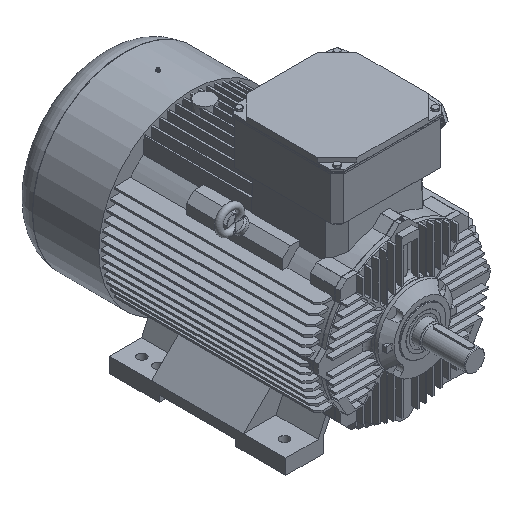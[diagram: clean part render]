
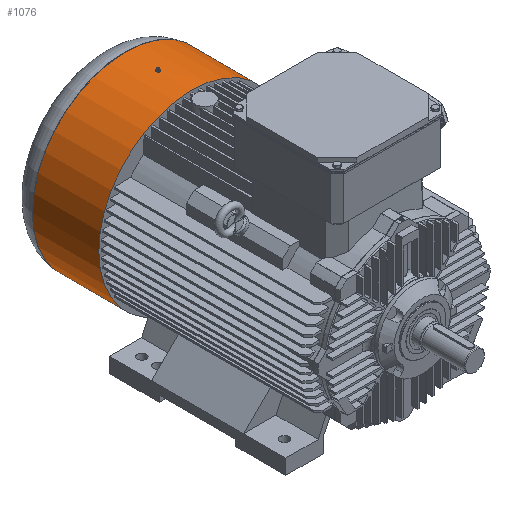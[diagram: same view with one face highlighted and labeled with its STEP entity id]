
A CAD part, isometric view. The second image highlights one B-rep face of the part: STEP entity #1076.
In plain terms, the highlighted cylindrical face has radius 298 mm (diameter 596 mm), a full revolution.
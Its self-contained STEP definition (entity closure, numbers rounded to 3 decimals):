
#1076 = ADVANCED_FACE( '', ( #3470, #3471, #3472 ), #3473, .T. );
#3470 = FACE_OUTER_BOUND( '', #10422, .T. );
#3471 = FACE_OUTER_BOUND( '', #10423, .T. );
#3472 = FACE_BOUND( '', #10424, .T. );
#3473 = CYLINDRICAL_SURFACE( '', #10425, 298. );
#10422 = EDGE_LOOP( '', ( #18239 ) );
#10423 = EDGE_LOOP( '', ( #18240 ) );
#10424 = EDGE_LOOP( '', ( #18241, #18242, #18243, #18244, #18245, #18246, #18247, #18248 ) );
#10425 = AXIS2_PLACEMENT_3D( '', #18249, #18250, #18251 );
#18239 = ORIENTED_EDGE( '', *, *, #24209, .T. );
#18240 = ORIENTED_EDGE( '', *, *, #24208, .F. );
#18241 = ORIENTED_EDGE( '', *, *, #22301, .F. );
#18242 = ORIENTED_EDGE( '', *, *, #22282, .F. );
#18243 = ORIENTED_EDGE( '', *, *, #22299, .F. );
#18244 = ORIENTED_EDGE( '', *, *, #22292, .F. );
#18245 = ORIENTED_EDGE( '', *, *, #22287, .F. );
#18246 = ORIENTED_EDGE( '', *, *, #22285, .F. );
#18247 = ORIENTED_EDGE( '', *, *, #22291, .F. );
#18248 = ORIENTED_EDGE( '', *, *, #22303, .F. );
#18249 = CARTESIAN_POINT( '', ( 0., 663., 0. ) );
#18250 = DIRECTION( '', ( 0., 1., 0. ) );
#18251 = DIRECTION( '', ( 0., 0., 1. ) );
#22282 = EDGE_CURVE( '', #25899, #25902, #25903, .T. );
#22285 = EDGE_CURVE( '', #25905, #25908, #25909, .F. );
#22287 = EDGE_CURVE( '', #25908, #25911, #25912, .T. );
#22291 = EDGE_CURVE( '', #25915, #25905, #25917, .T. );
#22292 = EDGE_CURVE( '', #25911, #25918, #25919, .T. );
#22299 = EDGE_CURVE( '', #25918, #25899, #25931, .T. );
#22301 = EDGE_CURVE( '', #25902, #25933, #25934, .T. );
#22303 = EDGE_CURVE( '', #25933, #25915, #25936, .T. );
#24208 = EDGE_CURVE( '', #29118, #29118, #29119, .T. );
#24209 = EDGE_CURVE( '', #29120, #29120, #29121, .T. );
#25899 = VERTEX_POINT( '', #32103 );
#25902 = VERTEX_POINT( '', #32107 );
#25903 = LINE( '', #32108, #32109 );
#25905 = VERTEX_POINT( '', #32112 );
#25908 = VERTEX_POINT( '', #32116 );
#25909 = LINE( '', #32117, #32118 );
#25911 = VERTEX_POINT( '', #32121 );
#25912 = ELLIPSE( '', #32122, 355.891, 298. );
#25915 = VERTEX_POINT( '', #32127 );
#25917 = ELLIPSE( '', #32130, 5439.988, 298. );
#25918 = VERTEX_POINT( '', #32131 );
#25919 = ELLIPSE( '', #32132, 334.038, 298. );
#25931 = ELLIPSE( '', #32151, 5439.988, 298. );
#25933 = VERTEX_POINT( '', #32154 );
#25934 = ELLIPSE( '', #32155, 355.891, 298. );
#25936 = ELLIPSE( '', #32158, 334.038, 298. );
#29118 = VERTEX_POINT( '', #39756 );
#29119 = CIRCLE( '', #39757, 298. );
#29120 = VERTEX_POINT( '', #39758 );
#29121 = CIRCLE( '', #39759, 298. );
#32103 = CARTESIAN_POINT( '', ( -5.459, 771.903, 297.95 ) );
#32107 = CARTESIAN_POINT( '', ( -5.459, 767.995, 297.95 ) );
#32108 = CARTESIAN_POINT( '', ( -5.459, 663., 297.95 ) );
#32109 = VECTOR( '', #45554, 1000. );
#32112 = CARTESIAN_POINT( '', ( 5.459, 770.097, 297.95 ) );
#32116 = CARTESIAN_POINT( '', ( 5.459, 774.005, 297.95 ) );
#32117 = CARTESIAN_POINT( '', ( 5.459, 663., 297.95 ) );
#32118 = VECTOR( '', #45557, 1000. );
#32121 = CARTESIAN_POINT( '', ( 0.348, 777.341, 298. ) );
#32122 = AXIS2_PLACEMENT_3D( '', #45559, #45560, #45561 );
#32127 = CARTESIAN_POINT( '', ( 5.318, 767.528, 297.953 ) );
#32130 = AXIS2_PLACEMENT_3D( '', #45565, #45566, #45567 );
#32131 = CARTESIAN_POINT( '', ( -5.318, 774.472, 297.953 ) );
#32132 = AXIS2_PLACEMENT_3D( '', #45568, #45569, #45570 );
#32151 = AXIS2_PLACEMENT_3D( '', #45580, #45581, #45582 );
#32154 = CARTESIAN_POINT( '', ( -0.348, 764.659, 298. ) );
#32155 = AXIS2_PLACEMENT_3D( '', #45584, #45585, #45586 );
#32158 = AXIS2_PLACEMENT_3D( '', #45588, #45589, #45590 );
#39756 = CARTESIAN_POINT( '', ( 0., 663., 298. ) );
#39757 = AXIS2_PLACEMENT_3D( '', #48217, #48218, #48219 );
#39758 = CARTESIAN_POINT( '', ( 0., 876., 298. ) );
#39759 = AXIS2_PLACEMENT_3D( '', #48220, #48221, #48222 );
#45554 = DIRECTION( '', ( 0., -1., 0. ) );
#45557 = DIRECTION( '', ( 0., -1., 0. ) );
#45559 = CARTESIAN_POINT( '', ( 0., 777.568, 0. ) );
#45560 = DIRECTION( '', ( -0.547, -0.837, 0. ) );
#45561 = DIRECTION( '', ( 0.837, -0.547, 0. ) );
#45565 = CARTESIAN_POINT( '', ( 0., 670.598, 0. ) );
#45566 = DIRECTION( '', ( -0.998, 0.055, 0. ) );
#45567 = DIRECTION( '', ( -0.055, -0.998, 0. ) );
#45568 = CARTESIAN_POINT( '', ( 0., 777.165, 0. ) );
#45569 = DIRECTION( '', ( 0.452, -0.892, 0. ) );
#45570 = DIRECTION( '', ( -0.892, -0.452, 0. ) );
#45580 = CARTESIAN_POINT( '', ( 0., 871.402, 0. ) );
#45581 = DIRECTION( '', ( 0.998, -0.055, 0. ) );
#45582 = DIRECTION( '', ( -0.055, -0.998, 0. ) );
#45584 = CARTESIAN_POINT( '', ( 0., 764.432, 0. ) );
#45585 = DIRECTION( '', ( 0.547, 0.837, 0. ) );
#45586 = DIRECTION( '', ( 0.837, -0.547, 0. ) );
#45588 = CARTESIAN_POINT( '', ( 0., 764.835, 0. ) );
#45589 = DIRECTION( '', ( -0.452, 0.892, 0. ) );
#45590 = DIRECTION( '', ( -0.892, -0.452, 0. ) );
#48217 = CARTESIAN_POINT( '', ( 0., 663., 0. ) );
#48218 = DIRECTION( '', ( 0., -1., 0. ) );
#48219 = DIRECTION( '', ( 0., 0., 1. ) );
#48220 = CARTESIAN_POINT( '', ( 0., 876., 0. ) );
#48221 = DIRECTION( '', ( 0., -1., 0. ) );
#48222 = DIRECTION( '', ( 0., 0., 1. ) );
